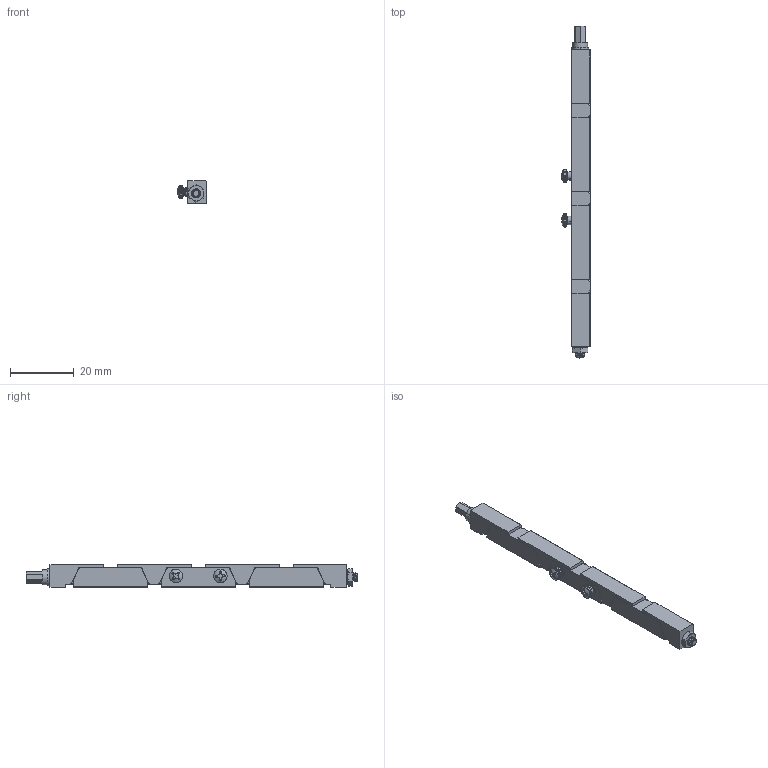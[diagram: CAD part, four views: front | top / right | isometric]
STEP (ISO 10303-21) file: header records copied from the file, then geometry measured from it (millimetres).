
FILE_DESCRIPTION (( 'STEP AP203' ), '1' );
FILE_NAME ('250-07 2-56 Side B.STEP', '2022-08-19T15:45:20', ( '' ), ( '' ), 'SwSTEP 2.0', 'SolidWorks 2021', '' );
FILE_SCHEMA (( 'CONFIG_CONTROL_DESIGN' ));
Length unit declared in the file: inch
Products named in the file (10): IL-250#-M2W; NAS620C4; NAS671C4; IL-250TB_7; U-256-1; MS51957-1; IL-250#-RW; IL-250#-MAW; 250-07 2-56 Side B; IL-250#-LW
Assembly tree (14 placements, depth 2):
  250-07 2-56 Side B
    NAS620C4
    MS51957-1  x2
    IL-250TB_7
    IL-250#-MAW  x4
    IL-250#-M2W
    U-256-1  x2
    NAS671C4
    IL-250#-LW
    IL-250#-RW
Bounding box: 9 x 104.39 x 7.02 mm (x, y, z)
Volume: 3258.6 mm3; surface area: 5967.9 mm2
Topology: 14 solids, 14 shells, 489 faces, 1303 edges, 850 vertices
Faces by surface type: cylinder 215, plane 180, cone 54, bspline 28, torus 8, sphere 4
Entity records: 17310 total; most frequent: CARTESIAN_POINT 8640, ORIENTED_EDGE 1792, DIRECTION 1347, EDGE_CURVE 896, VERTEX_POINT 585, AXIS2_PLACEMENT_3D 478, VECTOR 391, LINE 391
